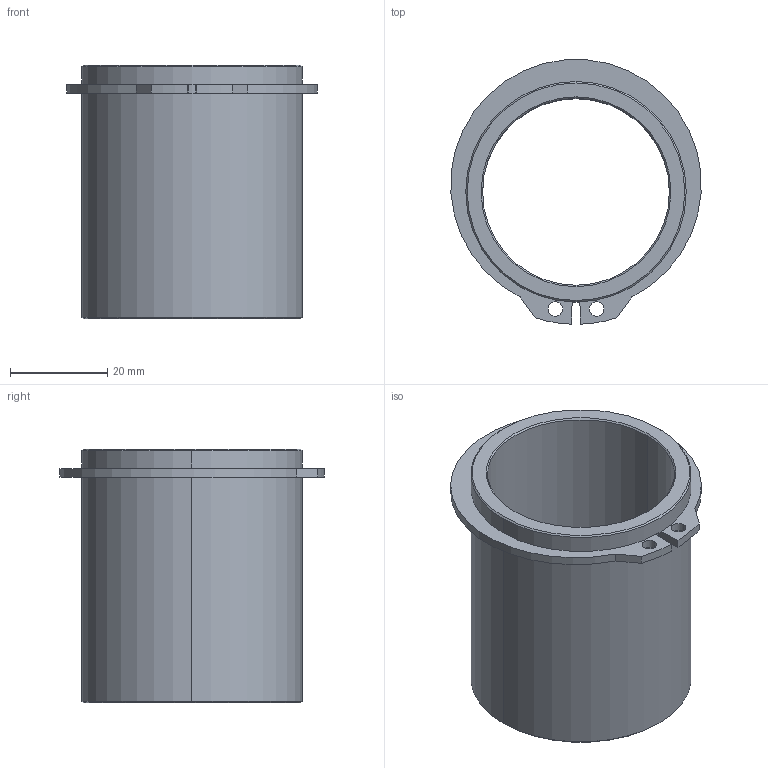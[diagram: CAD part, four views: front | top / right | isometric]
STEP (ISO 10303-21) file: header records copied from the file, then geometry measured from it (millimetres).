
FILE_DESCRIPTION((''),'2;1');
FILE_NAME('C13_038_052.stp','2008-12-17T15:24:52',(''),(''),'Mechanical Desktop 2009','Mechanical Desktop 2009',', , ');
FILE_SCHEMA(('CONFIG_CONTROL_DESIGN'));
Length unit declared in the file: millimetre
Products named in the file (2): Product; blmdl1
Assembly tree (1 placements, depth 2):
  Product
    blmdl1
Bounding box: 51.33 x 54.26 x 52 mm (x, y, z)
Volume: 24408.6 mm3; surface area: 16570.1 mm2
Topology: 2 solids, 2 shells, 34 faces, 76 edges, 48 vertices
Faces by surface type: cylinder 16, plane 10, cone 8
Entity records: 1075 total; most frequent: DIRECTION 188, CARTESIAN_POINT 160, ORIENTED_EDGE 152, AXIS2_PLACEMENT_3D 76, EDGE_CURVE 76, VERTEX_POINT 48, EDGE_LOOP 42, CIRCLE 40
